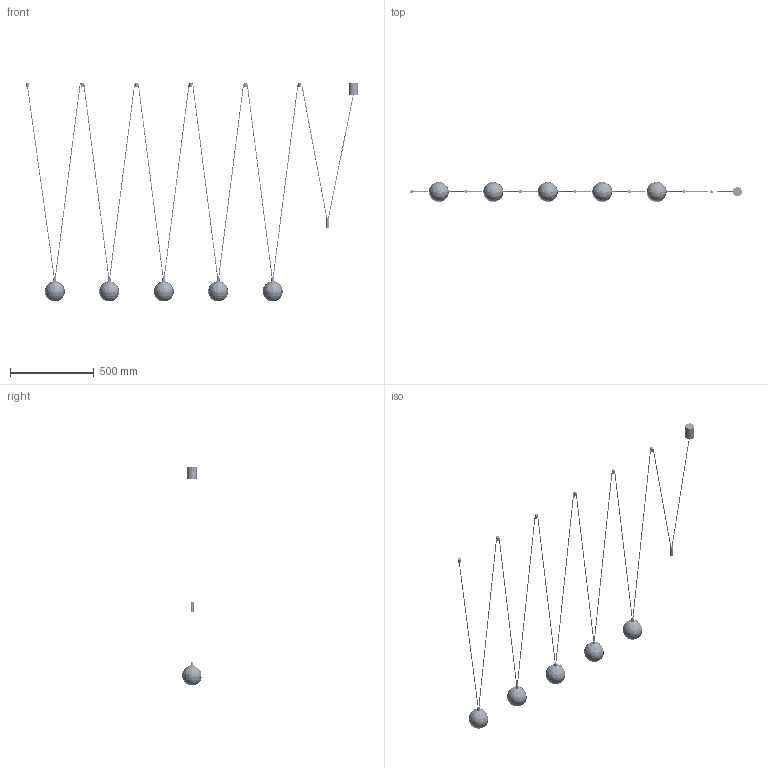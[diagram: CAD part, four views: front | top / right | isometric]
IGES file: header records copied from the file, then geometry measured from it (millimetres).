
Start section: SolidWorks IGES file using analytic representation for surfaces
Global section: file name: C:\Users\anna.bielnik\Desktop\modele 3D tymczasowe\SLING\SLING V\SLING-V-10355.IGS; native system: SolidWorks 2023; preprocessor: SolidWorks 2023; author: anna.bielnik; date: 230616.121033; units: millimetre
Bounding box: 1985.21 x 118.94 x 1309.38 mm (x, y, z)
Surface area: 809783.5 mm2 (no closed solid volume)
Topology: 0 solids, 0 shells, 6574 faces, 55985 edges, 55691 vertices
Faces by surface type: bspline 5067, revolution 1507
